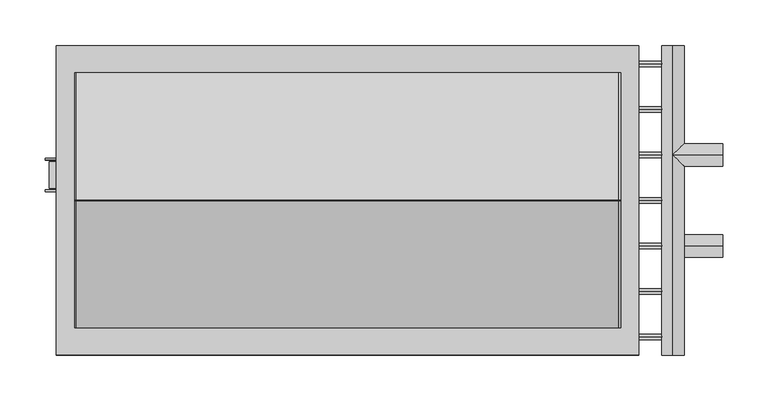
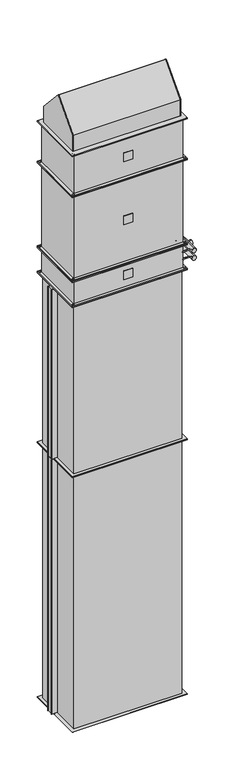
"""IFC4 building model written with IfcOpenShell, lengths in millimetres: proxy geometry, KORF_Завеса_ВодянойНагрев_PWZ_C : PWZ-C 60-30 W2."""

from ifc_helpers import new_model, si_unit, point, frame, frame_2d, origin, origin_with_axes, place, context, project, spatial, polyline, circle_curve, ellipse_curve, trimmed, segment, composite_curve, outline, extrude, source, transform, mapped, element, save
from ifc_brep_helpers import plane_surface, cylinder_surface, advanced_brep


def mechanical_equipment_80870b71(model_context):
    return source(origin(), model_context, "Body", "SolidModel", [
        extrude(outline(polyline([(25.0, -155.0), (-25.0, -155.0), (-25.0, -153.0), (25.0, -153.0), (25.0, -155.0)])), frame((0.0, 0.0, 2550.0), z_axis=(0.0, 0.0, 1.0), x_axis=(1.0, 0.0, 0.0)), (0.0, 0.0, 1.0), 50.0),
        extrude(outline(polyline([(320.0, -170.0), (-320.0, -170.0), (-320.0, 170.0), (320.0, 170.0), (320.0, -170.0)]), holes=[polyline([(300.0, -150.0), (300.0, 150.0), (-300.0, 150.0), (-300.0, -150.0), (300.0, -150.0)]), composite_curve([segment(trimmed(circle_curve(frame_2d((-310.0, -160.0)), 4.5), [point((-305.5, -160.0))], [point((-314.5, -160.0))], True, "CARTESIAN"), True, "CONTINUOUS"), segment(trimmed(circle_curve(frame_2d((-310.0, -160.0)), 4.5), [point((-314.5, -160.0))], [point((-305.5, -160.0))], True, "CARTESIAN"), True, "CONTINUOUS")], self_intersect=False), composite_curve([segment(trimmed(circle_curve(frame_2d((310.0, -160.0)), 4.5), [point((314.5, -160.0))], [point((305.5, -160.0))], True, "CARTESIAN"), True, "CONTINUOUS"), segment(trimmed(circle_curve(frame_2d((310.0, -160.0)), 4.5), [point((305.5, -160.0))], [point((314.5, -160.0))], True, "CARTESIAN"), True, "CONTINUOUS")], self_intersect=False), composite_curve([segment(trimmed(circle_curve(frame_2d((310.0, 160.0)), 4.5), [point((314.5, 160.0))], [point((305.5, 160.0))], True, "CARTESIAN"), True, "CONTINUOUS"), segment(trimmed(circle_curve(frame_2d((310.0, 160.0)), 4.5), [point((305.5, 160.0))], [point((314.5, 160.0))], True, "CARTESIAN"), True, "CONTINUOUS")], self_intersect=False), composite_curve([segment(trimmed(circle_curve(frame_2d((-310.0, 160.0)), 4.5), [point((-305.5, 160.0))], [point((-314.5, 160.0))], True, "CARTESIAN"), True, "CONTINUOUS"), segment(trimmed(circle_curve(frame_2d((-310.0, 160.0)), 4.5), [point((-314.5, 160.0))], [point((-305.5, 160.0))], True, "CARTESIAN"), True, "CONTINUOUS")], self_intersect=False)]), frame((0.0, 0.0, 2645.0), z_axis=(0.0, 0.0, 1.0), x_axis=(1.0, 0.0, 0.0)), (0.0, 0.0, 1.0), 5.0),
        extrude(outline(polyline([(320.0, -170.0), (-320.0, -170.0), (-320.0, 170.0), (320.0, 170.0), (320.0, -170.0)]), holes=[polyline([(300.0, -150.0), (300.0, 150.0), (-300.0, 150.0), (-300.0, -150.0), (300.0, -150.0)]), composite_curve([segment(trimmed(circle_curve(frame_2d((-310.0, -160.0)), 4.5), [point((-305.5, -160.0))], [point((-314.5, -160.0))], True, "CARTESIAN"), True, "CONTINUOUS"), segment(trimmed(circle_curve(frame_2d((-310.0, -160.0)), 4.5), [point((-314.5, -160.0))], [point((-305.5, -160.0))], True, "CARTESIAN"), True, "CONTINUOUS")], self_intersect=False), composite_curve([segment(trimmed(circle_curve(frame_2d((310.0, -160.0)), 4.5), [point((314.5, -160.0))], [point((305.5, -160.0))], True, "CARTESIAN"), True, "CONTINUOUS"), segment(trimmed(circle_curve(frame_2d((310.0, -160.0)), 4.5), [point((305.5, -160.0))], [point((314.5, -160.0))], True, "CARTESIAN"), True, "CONTINUOUS")], self_intersect=False), composite_curve([segment(trimmed(circle_curve(frame_2d((310.0, 160.0)), 4.5), [point((314.5, 160.0))], [point((305.5, 160.0))], True, "CARTESIAN"), True, "CONTINUOUS"), segment(trimmed(circle_curve(frame_2d((310.0, 160.0)), 4.5), [point((305.5, 160.0))], [point((314.5, 160.0))], True, "CARTESIAN"), True, "CONTINUOUS")], self_intersect=False), composite_curve([segment(trimmed(circle_curve(frame_2d((-310.0, 160.0)), 4.5), [point((-305.5, 160.0))], [point((-314.5, 160.0))], True, "CARTESIAN"), True, "CONTINUOUS"), segment(trimmed(circle_curve(frame_2d((-310.0, 160.0)), 4.5), [point((-314.5, 160.0))], [point((-305.5, 160.0))], True, "CARTESIAN"), True, "CONTINUOUS")], self_intersect=False)]), frame((0.0, 0.0, 2500.0), z_axis=(0.0, 0.0, 1.0), x_axis=(1.0, 0.0, 0.0)), (0.0, 0.0, 1.0), 5.0),
        extrude(outline(polyline([(303.0, -153.0), (-303.0, -153.0), (-303.0, 153.0), (303.0, 153.0), (303.0, -153.0)])), frame((0.0, 0.0, 2505.0), z_axis=(0.0, 0.0, 1.0), x_axis=(1.0, 0.0, 0.0)), (0.0, 0.0, 1.0), 140.0),
        advanced_brep(
        [(412.0, -50.0, 2541.0), (412.0, -50.0, 2566.0), (357.5, -50.0, 2541.0), (357.5, -50.0, 2566.0), (357.5, -170.0, 2541.0), (357.5, -170.0, 2566.0), (357.5, 170.0, 2541.0), (357.5, 170.0, 2566.0)],
        [
            (0, 1, circle_curve(frame((412.0, -50.0, 2553.5), z_axis=(1.0, 0.0, 0.0), x_axis=(0.0, 0.0, 1.0000000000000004)), 12.5)),
            (1, 0, circle_curve(frame((412.0, -50.0, 2553.5), z_axis=(1.0, 0.0, 0.0), x_axis=(0.0, 0.0, 1.0000000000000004)), 12.5)),
            (0, 2),
            (2, 3, ellipse_curve(frame((357.5, -50.0, 2553.5), z_axis=(0.7071067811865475, -0.7071067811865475, 0.0), x_axis=(0.7071067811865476, 0.7071067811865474, 0.0)), 17.6776695, 12.5)),
            (3, 1),
            (3, 2, ellipse_curve(frame((357.5, -50.0, 2553.5), z_axis=(0.7071067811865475, 0.7071067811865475, 0.0), x_axis=(0.7071067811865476, -0.7071067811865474, 0.0)), 17.6776695, 12.5)),
            (4, 5, circle_curve(frame((357.5, -170.0, 2553.5), z_axis=(0.0, -1.0, 0.0), x_axis=(0.0, 0.0, 1.0000000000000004)), 12.5)),
            (5, 4, circle_curve(frame((357.5, -170.0, 2553.5), z_axis=(0.0, -1.0, 0.0), x_axis=(0.0, 0.0, 1.0000000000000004)), 12.5)),
            (6, 7, circle_curve(frame((357.5, 170.0, 2553.5), z_axis=(0.0, 1.0, 0.0), x_axis=(0.0, 0.0, 1.0000000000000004)), 12.5)),
            (7, 6, circle_curve(frame((357.5, 170.0, 2553.5), z_axis=(0.0, 1.0, 0.0), x_axis=(0.0, 0.0, 1.0000000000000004)), 12.5)),
            (4, 2),
            (3, 5),
            (7, 3),
            (2, 6),
        ],
        [
            plane_surface(frame((412.0, -50.0, 2566.0), z_axis=(1.0, 0.0, 0.0), x_axis=(0.0, -1.0, 0.0))),
            cylinder_surface(frame((357.5, -50.0, 2553.5), z_axis=(1.0000000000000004, 0.0, 0.0), x_axis=(0.0, 0.0, 1.0000000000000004)), 12.5),
            plane_surface(frame((357.5, -170.0, 2566.0), z_axis=(0.0, -1.0, 0.0), x_axis=(-1.0, 0.0, 0.0))),
            plane_surface(frame((357.5, 170.0, 2566.0), z_axis=(0.0, 1.0, 0.0), x_axis=(1.0, 0.0, 0.0))),
            cylinder_surface(frame((357.5, 170.0, 2553.5), z_axis=(0.0, -1.0, 0.0), x_axis=(0.0, 0.0, 1.0000000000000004)), 12.5),
        ],
        [
            (0, [[1, 2]]),
            (1, [[-1, 3, 4, 5]]),
            (1, [[-2, -5, 6, -3]]),
            (2, [[7, 8]]),
            (3, [[9, 10]]),
            (4, [[-7, 11, -6, 12]]),
            (4, [[-10, 13, -4, 14]]),
            (4, [[-8, -12, -13, -9, -14, -11]]),
        ],
    ),
        advanced_brep(
        [(412.0, 50.0, 2584.0), (412.0, 50.0, 2609.0), (357.5, 50.0, 2584.0), (357.5, 50.0, 2609.0), (357.5, -170.0, 2584.0), (357.5, -170.0, 2609.0), (357.5, 170.0, 2584.0), (357.5, 170.0, 2609.0)],
        [
            (0, 1, circle_curve(frame((412.0, 50.0, 2596.5), z_axis=(1.0, 0.0, 0.0), x_axis=(0.0, 0.0, 1.0000000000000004)), 12.5)),
            (1, 0, circle_curve(frame((412.0, 50.0, 2596.5), z_axis=(1.0, 0.0, 0.0), x_axis=(0.0, 0.0, 1.0000000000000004)), 12.5)),
            (0, 2),
            (2, 3, ellipse_curve(frame((357.5, 50.0, 2596.5), z_axis=(0.7071067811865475, -0.7071067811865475, 0.0), x_axis=(0.7071067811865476, 0.7071067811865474, 0.0)), 17.6776695, 12.5)),
            (3, 1),
            (3, 2, ellipse_curve(frame((357.5, 50.0, 2596.5), z_axis=(0.7071067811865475, 0.7071067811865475, 0.0), x_axis=(0.7071067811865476, -0.7071067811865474, 0.0)), 17.6776695, 12.5)),
            (4, 5, circle_curve(frame((357.5, -170.0, 2596.5), z_axis=(0.0, -1.0, 0.0), x_axis=(0.0, 0.0, 1.0000000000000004)), 12.5)),
            (5, 4, circle_curve(frame((357.5, -170.0, 2596.5), z_axis=(0.0, -1.0, 0.0), x_axis=(0.0, 0.0, 1.0000000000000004)), 12.5)),
            (6, 7, circle_curve(frame((357.5, 170.0, 2596.5), z_axis=(0.0, 1.0, 0.0), x_axis=(0.0, 0.0, 1.0000000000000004)), 12.5)),
            (7, 6, circle_curve(frame((357.5, 170.0, 2596.5), z_axis=(0.0, 1.0, 0.0), x_axis=(0.0, 0.0, 1.0000000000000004)), 12.5)),
            (4, 2),
            (3, 5),
            (7, 3),
            (2, 6),
        ],
        [
            plane_surface(frame((412.0, -50.0, 2566.0), z_axis=(1.0, 0.0, 0.0), x_axis=(0.0, -1.0, 0.0))),
            cylinder_surface(frame((0.0, 50.0, 2596.5), z_axis=(1.0000000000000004, 0.0, 0.0), x_axis=(0.0, 0.0, 1.0000000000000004)), 12.5),
            plane_surface(frame((357.5, -170.0, 2566.0), z_axis=(0.0, -1.0, 0.0), x_axis=(-1.0, 0.0, 0.0))),
            plane_surface(frame((357.5, 170.0, 2566.0), z_axis=(0.0, 1.0, 0.0), x_axis=(1.0, 0.0, 0.0))),
            cylinder_surface(frame((357.5, 0.0, 2596.5), z_axis=(0.0, -1.0, 0.0), x_axis=(0.0, 0.0, 1.0000000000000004)), 12.5),
        ],
        [
            (0, [[1, 2]]),
            (1, [[-1, 3, 4, 5]]),
            (1, [[-2, -5, 6, -3]]),
            (2, [[7, 8]]),
            (3, [[9, 10]]),
            (4, [[-7, 11, -6, 12]]),
            (4, [[-10, 13, -4, 14]]),
            (4, [[-8, -12, -13, -9, -14, -11]]),
        ],
    ),
        extrude(outline(composite_curve([segment(trimmed(circle_curve(frame_2d((-150.0, 2553.5)), 3.0), [point((-150.0, 2550.5))], [point((-150.0, 2556.5))], False, "CARTESIAN"), True, "CONTINUOUS"), segment(trimmed(circle_curve(frame_2d((-150.0, 2553.5)), 3.0), [point((-150.0, 2556.5))], [point((-150.0, 2550.5))], False, "CARTESIAN"), True, "CONTINUOUS")], self_intersect=False)), frame((303.0, 0.0, 0.0), z_axis=(1.0, 0.0, 0.0), x_axis=(0.0, 1.0, 0.0)), (0.0, 0.0, 1.0), 54.5),
        extrude(outline(composite_curve([segment(trimmed(circle_curve(frame_2d((-100.0, 2553.5)), 3.0), [point((-100.0, 2550.5))], [point((-100.0, 2556.5))], False, "CARTESIAN"), True, "CONTINUOUS"), segment(trimmed(circle_curve(frame_2d((-100.0, 2553.5)), 3.0), [point((-100.0, 2556.5))], [point((-100.0, 2550.5))], False, "CARTESIAN"), True, "CONTINUOUS")], self_intersect=False)), frame((303.0, 0.0, 0.0), z_axis=(1.0, 0.0, 0.0), x_axis=(0.0, 1.0, 0.0)), (0.0, 0.0, 1.0), 54.5),
        extrude(outline(composite_curve([segment(trimmed(circle_curve(frame_2d((-50.0, 2553.5)), 3.0), [point((-50.0, 2550.5))], [point((-50.0, 2556.5))], False, "CARTESIAN"), True, "CONTINUOUS"), segment(trimmed(circle_curve(frame_2d((-50.0, 2553.5)), 3.0), [point((-50.0, 2556.5))], [point((-50.0, 2550.5))], False, "CARTESIAN"), True, "CONTINUOUS")], self_intersect=False)), frame((303.0, 0.0, 0.0), z_axis=(1.0, 0.0, 0.0), x_axis=(0.0, 1.0, 0.0)), (0.0, 0.0, 1.0), 54.5),
        extrude(outline(composite_curve([segment(trimmed(circle_curve(frame_2d((0.0, 2553.5)), 3.0), [point((0.0, 2550.5))], [point((0.0, 2556.5))], False, "CARTESIAN"), True, "CONTINUOUS"), segment(trimmed(circle_curve(frame_2d((0.0, 2553.5)), 3.0), [point((0.0, 2556.5))], [point((0.0, 2550.5))], False, "CARTESIAN"), True, "CONTINUOUS")], self_intersect=False)), frame((303.0, 0.0, 0.0), z_axis=(1.0, 0.0, 0.0), x_axis=(0.0, 1.0, 0.0)), (0.0, 0.0, 1.0), 54.5),
        extrude(outline(composite_curve([segment(trimmed(circle_curve(frame_2d((50.0, 2553.5)), 3.0), [point((50.0, 2550.5))], [point((50.0, 2556.5))], False, "CARTESIAN"), True, "CONTINUOUS"), segment(trimmed(circle_curve(frame_2d((50.0, 2553.5)), 3.0), [point((50.0, 2556.5))], [point((50.0, 2550.5))], False, "CARTESIAN"), True, "CONTINUOUS")], self_intersect=False)), frame((303.0, 0.0, 0.0), z_axis=(1.0, 0.0, 0.0), x_axis=(0.0, 1.0, 0.0)), (0.0, 0.0, 1.0), 54.5),
        extrude(outline(composite_curve([segment(trimmed(circle_curve(frame_2d((100.0, 2553.5)), 3.0), [point((100.0, 2550.5))], [point((100.0, 2556.5))], False, "CARTESIAN"), True, "CONTINUOUS"), segment(trimmed(circle_curve(frame_2d((100.0, 2553.5)), 3.0), [point((100.0, 2556.5))], [point((100.0, 2550.5))], False, "CARTESIAN"), True, "CONTINUOUS")], self_intersect=False)), frame((303.0, 0.0, 0.0), z_axis=(1.0, 0.0, 0.0), x_axis=(0.0, 1.0, 0.0)), (0.0, 0.0, 1.0), 54.5),
        extrude(outline(composite_curve([segment(trimmed(circle_curve(frame_2d((100.0, 2596.5)), 3.0), [point((100.0, 2593.5))], [point((100.0, 2599.5))], False, "CARTESIAN"), True, "CONTINUOUS"), segment(trimmed(circle_curve(frame_2d((100.0, 2596.5)), 3.0), [point((100.0, 2599.5))], [point((100.0, 2593.5))], False, "CARTESIAN"), True, "CONTINUOUS")], self_intersect=False)), frame((303.0, 0.0, 0.0), z_axis=(1.0, 0.0, 0.0), x_axis=(0.0, 1.0, 0.0)), (0.0, 0.0, 1.0), 54.5),
        extrude(outline(composite_curve([segment(trimmed(circle_curve(frame_2d((50.0, 2596.5)), 3.0), [point((50.0, 2593.5))], [point((50.0, 2599.5))], False, "CARTESIAN"), True, "CONTINUOUS"), segment(trimmed(circle_curve(frame_2d((50.0, 2596.5)), 3.0), [point((50.0, 2599.5))], [point((50.0, 2593.5))], False, "CARTESIAN"), True, "CONTINUOUS")], self_intersect=False)), frame((303.0, 0.0, 0.0), z_axis=(1.0, 0.0, 0.0), x_axis=(0.0, 1.0, 0.0)), (0.0, 0.0, 1.0), 54.5),
        extrude(outline(composite_curve([segment(trimmed(circle_curve(frame_2d((0.0, 2596.5)), 3.0), [point((0.0, 2593.5))], [point((0.0, 2599.5))], False, "CARTESIAN"), True, "CONTINUOUS"), segment(trimmed(circle_curve(frame_2d((0.0, 2596.5)), 3.0), [point((0.0, 2599.5))], [point((0.0, 2593.5))], False, "CARTESIAN"), True, "CONTINUOUS")], self_intersect=False)), frame((303.0, 0.0, 0.0), z_axis=(1.0, 0.0, 0.0), x_axis=(0.0, 1.0, 0.0)), (0.0, 0.0, 1.0), 54.5),
        extrude(outline(composite_curve([segment(trimmed(circle_curve(frame_2d((-50.0, 2596.5)), 3.0), [point((-50.0, 2593.5))], [point((-50.0, 2599.5))], False, "CARTESIAN"), True, "CONTINUOUS"), segment(trimmed(circle_curve(frame_2d((-50.0, 2596.5)), 3.0), [point((-50.0, 2599.5))], [point((-50.0, 2593.5))], False, "CARTESIAN"), True, "CONTINUOUS")], self_intersect=False)), frame((303.0, 0.0, 0.0), z_axis=(1.0, 0.0, 0.0), x_axis=(0.0, 1.0, 0.0)), (0.0, 0.0, 1.0), 54.5),
        extrude(outline(composite_curve([segment(trimmed(circle_curve(frame_2d((-100.0, 2596.5)), 3.0), [point((-100.0, 2593.5))], [point((-100.0, 2599.5))], False, "CARTESIAN"), True, "CONTINUOUS"), segment(trimmed(circle_curve(frame_2d((-100.0, 2596.5)), 3.0), [point((-100.0, 2599.5))], [point((-100.0, 2593.5))], False, "CARTESIAN"), True, "CONTINUOUS")], self_intersect=False)), frame((303.0, 0.0, 0.0), z_axis=(1.0, 0.0, 0.0), x_axis=(0.0, 1.0, 0.0)), (0.0, 0.0, 1.0), 54.5),
        extrude(outline(composite_curve([segment(trimmed(circle_curve(frame_2d((-150.0, 2596.5)), 3.0), [point((-150.0, 2593.5))], [point((-150.0, 2599.5))], False, "CARTESIAN"), True, "CONTINUOUS"), segment(trimmed(circle_curve(frame_2d((-150.0, 2596.5)), 3.0), [point((-150.0, 2599.5))], [point((-150.0, 2593.5))], False, "CARTESIAN"), True, "CONTINUOUS")], self_intersect=False)), frame((303.0, 0.0, 0.0), z_axis=(1.0, 0.0, 0.0), x_axis=(0.0, 1.0, 0.0)), (0.0, 0.0, 1.0), 54.5),
        extrude(outline(composite_curve([segment(trimmed(circle_curve(frame_2d((150.0, 2553.5)), 3.0), [point((150.0, 2550.5))], [point((150.0, 2556.5))], False, "CARTESIAN"), True, "CONTINUOUS"), segment(trimmed(circle_curve(frame_2d((150.0, 2553.5)), 3.0), [point((150.0, 2556.5))], [point((150.0, 2550.5))], False, "CARTESIAN"), True, "CONTINUOUS")], self_intersect=False)), frame((303.0, 0.0, 0.0), z_axis=(1.0, 0.0, 0.0), x_axis=(0.0, 1.0, 0.0)), (0.0, 0.0, 1.0), 54.5),
        extrude(outline(composite_curve([segment(trimmed(circle_curve(frame_2d((150.0, 2596.5)), 3.0), [point((150.0, 2593.5))], [point((150.0, 2599.5))], False, "CARTESIAN"), True, "CONTINUOUS"), segment(trimmed(circle_curve(frame_2d((150.0, 2596.5)), 3.0), [point((150.0, 2599.5))], [point((150.0, 2593.5))], False, "CARTESIAN"), True, "CONTINUOUS")], self_intersect=False)), frame((303.0, 0.0, 0.0), z_axis=(1.0, 0.0, 0.0), x_axis=(0.0, 1.0, 0.0)), (0.0, 0.0, 1.0), 54.5),
        extrude(outline(polyline([(25.0, -155.0), (-25.0, -155.0), (-25.0, -153.0), (25.0, -153.0), (25.0, -155.0)])), frame((0.0, 0.0, 3244.0), z_axis=(0.0, 0.0, 1.0), x_axis=(1.0, 0.0, 0.0)), (0.0, 0.0, 1.0), 50.0),
        extrude(outline(polyline([(-320.0, -170.0), (-320.0, 170.0), (320.0, 170.0), (320.0, -170.0), (-320.0, -170.0)]), holes=[polyline([(-300.0, -150.0), (300.0, -150.0), (300.0, 150.0), (-300.0, 150.0), (-300.0, -150.0)]), composite_curve([segment(trimmed(circle_curve(frame_2d((310.0, -160.0)), 4.5), [point((314.5, -160.0))], [point((305.5, -160.0))], True, "CARTESIAN"), True, "CONTINUOUS"), segment(trimmed(circle_curve(frame_2d((310.0, -160.0)), 4.5), [point((305.5, -160.0))], [point((314.5, -160.0))], True, "CARTESIAN"), True, "CONTINUOUS")], self_intersect=False), composite_curve([segment(trimmed(circle_curve(frame_2d((-310.0, -160.0)), 4.5), [point((-305.5, -160.0))], [point((-314.5, -160.0))], True, "CARTESIAN"), True, "CONTINUOUS"), segment(trimmed(circle_curve(frame_2d((-310.0, -160.0)), 4.5), [point((-314.5, -160.0))], [point((-305.5, -160.0))], True, "CARTESIAN"), True, "CONTINUOUS")], self_intersect=False), composite_curve([segment(trimmed(circle_curve(frame_2d((-310.0, 160.0)), 4.5), [point((-305.5, 160.0))], [point((-314.5, 160.0))], True, "CARTESIAN"), True, "CONTINUOUS"), segment(trimmed(circle_curve(frame_2d((-310.0, 160.0)), 4.5), [point((-314.5, 160.0))], [point((-305.5, 160.0))], True, "CARTESIAN"), True, "CONTINUOUS")], self_intersect=False), composite_curve([segment(trimmed(circle_curve(frame_2d((310.0, 160.0)), 4.5), [point((314.5, 160.0))], [point((305.5, 160.0))], True, "CARTESIAN"), True, "CONTINUOUS"), segment(trimmed(circle_curve(frame_2d((310.0, 160.0)), 4.5), [point((305.5, 160.0))], [point((314.5, 160.0))], True, "CARTESIAN"), True, "CONTINUOUS")], self_intersect=False)]), frame((0.0, 0.0, 3148.0), z_axis=(0.0, 0.0, 1.0), x_axis=(1.0, 0.0, 0.0)), (0.0, 0.0, 1.0), 5.0),
        extrude(outline(polyline([(-320.0, -170.0), (-320.0, 170.0), (320.0, 170.0), (320.0, -170.0), (-320.0, -170.0)]), holes=[polyline([(-300.0, -150.0), (300.0, -150.0), (300.0, 150.0), (-300.0, 150.0), (-300.0, -150.0)]), composite_curve([segment(trimmed(circle_curve(frame_2d((310.0, -160.0)), 4.5), [point((314.5, -160.0))], [point((305.5, -160.0))], True, "CARTESIAN"), True, "CONTINUOUS"), segment(trimmed(circle_curve(frame_2d((310.0, -160.0)), 4.5), [point((305.5, -160.0))], [point((314.5, -160.0))], True, "CARTESIAN"), True, "CONTINUOUS")], self_intersect=False), composite_curve([segment(trimmed(circle_curve(frame_2d((-310.0, -160.0)), 4.5), [point((-305.5, -160.0))], [point((-314.5, -160.0))], True, "CARTESIAN"), True, "CONTINUOUS"), segment(trimmed(circle_curve(frame_2d((-310.0, -160.0)), 4.5), [point((-314.5, -160.0))], [point((-305.5, -160.0))], True, "CARTESIAN"), True, "CONTINUOUS")], self_intersect=False), composite_curve([segment(trimmed(circle_curve(frame_2d((-310.0, 160.0)), 4.5), [point((-305.5, 160.0))], [point((-314.5, 160.0))], True, "CARTESIAN"), True, "CONTINUOUS"), segment(trimmed(circle_curve(frame_2d((-310.0, 160.0)), 4.5), [point((-314.5, 160.0))], [point((-305.5, 160.0))], True, "CARTESIAN"), True, "CONTINUOUS")], self_intersect=False), composite_curve([segment(trimmed(circle_curve(frame_2d((310.0, 160.0)), 4.5), [point((314.5, 160.0))], [point((305.5, 160.0))], True, "CARTESIAN"), True, "CONTINUOUS"), segment(trimmed(circle_curve(frame_2d((310.0, 160.0)), 4.5), [point((305.5, 160.0))], [point((314.5, 160.0))], True, "CARTESIAN"), True, "CONTINUOUS")], self_intersect=False)]), frame((0.0, 0.0, 3385.0), z_axis=(0.0, 0.0, 1.0), x_axis=(1.0, 0.0, 0.0)), (0.0, 0.0, 1.0), 5.0),
        extrude(outline(polyline([(-303.0, -153.0), (-303.0, 153.0), (303.0, 153.0), (303.0, -153.0), (-303.0, -153.0)])), frame((0.0, 0.0, 3153.0), z_axis=(0.0, 0.0, 1.0), x_axis=(1.0, 0.0, 0.0)), (0.0, 0.0, 1.0), 232.0),
        extrude(outline(polyline([(25.0, -155.0), (-25.0, -155.0), (-25.0, -153.0), (25.0, -153.0), (25.0, -155.0)])), frame((0.0, 0.0, 2874.0), z_axis=(0.0, 0.0, 1.0), x_axis=(1.0, 0.0, 0.0)), (0.0, 0.0, 1.0), 50.0),
        extrude(outline(polyline([(320.0, -170.0), (-320.0, -170.0), (-320.0, 170.0), (320.0, 170.0), (320.0, -170.0)]), holes=[polyline([(300.0, -150.0), (300.0, 150.0), (-300.0, 150.0), (-300.0, -150.0), (300.0, -150.0)]), composite_curve([segment(trimmed(circle_curve(frame_2d((-310.0, -160.0)), 4.5), [point((-305.5, -160.0))], [point((-314.5, -160.0))], True, "CARTESIAN"), True, "CONTINUOUS"), segment(trimmed(circle_curve(frame_2d((-310.0, -160.0)), 4.5), [point((-314.5, -160.0))], [point((-305.5, -160.0))], True, "CARTESIAN"), True, "CONTINUOUS")], self_intersect=False), composite_curve([segment(trimmed(circle_curve(frame_2d((310.0, -160.0)), 4.5), [point((314.5, -160.0))], [point((305.5, -160.0))], True, "CARTESIAN"), True, "CONTINUOUS"), segment(trimmed(circle_curve(frame_2d((310.0, -160.0)), 4.5), [point((305.5, -160.0))], [point((314.5, -160.0))], True, "CARTESIAN"), True, "CONTINUOUS")], self_intersect=False), composite_curve([segment(trimmed(circle_curve(frame_2d((310.0, 160.0)), 4.5), [point((314.5, 160.0))], [point((305.5, 160.0))], True, "CARTESIAN"), True, "CONTINUOUS"), segment(trimmed(circle_curve(frame_2d((310.0, 160.0)), 4.5), [point((305.5, 160.0))], [point((314.5, 160.0))], True, "CARTESIAN"), True, "CONTINUOUS")], self_intersect=False), composite_curve([segment(trimmed(circle_curve(frame_2d((-310.0, 160.0)), 4.5), [point((-305.5, 160.0))], [point((-314.5, 160.0))], True, "CARTESIAN"), True, "CONTINUOUS"), segment(trimmed(circle_curve(frame_2d((-310.0, 160.0)), 4.5), [point((-314.5, 160.0))], [point((-305.5, 160.0))], True, "CARTESIAN"), True, "CONTINUOUS")], self_intersect=False)]), frame((0.0, 0.0, 3143.0), z_axis=(0.0, 0.0, 1.0), x_axis=(1.0, 0.0, 0.0)), (0.0, 0.0, 1.0), 5.0),
        extrude(outline(polyline([(320.0, -170.0), (-320.0, -170.0), (-320.0, 170.0), (320.0, 170.0), (320.0, -170.0)]), holes=[polyline([(300.0, -150.0), (300.0, 150.0), (-300.0, 150.0), (-300.0, -150.0), (300.0, -150.0)]), composite_curve([segment(trimmed(circle_curve(frame_2d((-310.0, -160.0)), 4.5), [point((-305.5, -160.0))], [point((-314.5, -160.0))], True, "CARTESIAN"), True, "CONTINUOUS"), segment(trimmed(circle_curve(frame_2d((-310.0, -160.0)), 4.5), [point((-314.5, -160.0))], [point((-305.5, -160.0))], True, "CARTESIAN"), True, "CONTINUOUS")], self_intersect=False), composite_curve([segment(trimmed(circle_curve(frame_2d((310.0, -160.0)), 4.5), [point((314.5, -160.0))], [point((305.5, -160.0))], True, "CARTESIAN"), True, "CONTINUOUS"), segment(trimmed(circle_curve(frame_2d((310.0, -160.0)), 4.5), [point((305.5, -160.0))], [point((314.5, -160.0))], True, "CARTESIAN"), True, "CONTINUOUS")], self_intersect=False), composite_curve([segment(trimmed(circle_curve(frame_2d((310.0, 160.0)), 4.5), [point((314.5, 160.0))], [point((305.5, 160.0))], True, "CARTESIAN"), True, "CONTINUOUS"), segment(trimmed(circle_curve(frame_2d((310.0, 160.0)), 4.5), [point((305.5, 160.0))], [point((314.5, 160.0))], True, "CARTESIAN"), True, "CONTINUOUS")], self_intersect=False), composite_curve([segment(trimmed(circle_curve(frame_2d((-310.0, 160.0)), 4.5), [point((-305.5, 160.0))], [point((-314.5, 160.0))], True, "CARTESIAN"), True, "CONTINUOUS"), segment(trimmed(circle_curve(frame_2d((-310.0, 160.0)), 4.5), [point((-314.5, 160.0))], [point((-305.5, 160.0))], True, "CARTESIAN"), True, "CONTINUOUS")], self_intersect=False)]), frame((0.0, 0.0, 2650.0), z_axis=(0.0, 0.0, 1.0), x_axis=(1.0, 0.0, 0.0)), (0.0, 0.0, 1.0), 5.0),
        extrude(outline(polyline([(303.0, -153.0), (-303.0, -153.0), (-303.0, 153.0), (303.0, 153.0), (303.0, -153.0)])), frame((0.0, 0.0, 2655.0), z_axis=(0.0, 0.0, 1.0), x_axis=(1.0, 0.0, 0.0)), (0.0, 0.0, 1.0), 488.0),
        extrude(outline(polyline([(300.0, 150.0), (300.0, -150.0), (-300.0, -150.0), (-300.0, 150.0), (300.0, 150.0)])), frame((0.0, 0.0, 1500.0), z_axis=(0.0, 0.0, 1.0), x_axis=(1.0, 0.0, 0.0)), (0.0, 0.0, 1.0), 1000.0),
        extrude(outline(polyline([(-328.0, 42.5), (-300.0, 42.5), (-300.0, 13.5), (-328.0, 13.5), (-328.0, 42.5)])), frame((0.0, 0.0, 1502.0), z_axis=(0.0, 0.0, 1.0), x_axis=(1.0, 0.0, 0.0)), (0.0, 0.0, 1.0), 996.0),
        extrude(outline(polyline([(-332.0, 46.5), (-300.0, 46.5), (-300.0, 44.5), (-332.0, 44.5), (-332.0, 46.5)])), frame((0.0, 0.0, 1502.0), z_axis=(0.0, 0.0, 1.0), x_axis=(1.0, 0.0, 0.0)), (0.0, 0.0, 1.0), 996.0),
        extrude(outline(polyline([(-332.0, 9.5), (-332.0, 11.5), (-300.0, 11.5), (-300.0, 9.5), (-332.0, 9.5)])), frame((0.0, 0.0, 1502.0), z_axis=(0.0, 0.0, 1.0), x_axis=(1.0, 0.0, 0.0)), (0.0, 0.0, 1.0), 996.0),
        extrude(outline(polyline([(320.0, 170.0), (320.0, -170.0), (-320.0, -170.0), (-320.0, 170.0), (320.0, 170.0)]), holes=[polyline([(300.0, 150.0), (-300.0, 150.0), (-300.0, -150.0), (300.0, -150.0), (300.0, 150.0)])]), frame((0.0, 0.0, 2498.0), z_axis=(0.0, 0.0, 1.0), x_axis=(1.0, 0.0, 0.0)), (0.0, 0.0, 1.0), 2.0),
        extrude(outline(polyline([(320.0, 170.0), (320.0, -170.0), (-320.0, -170.0), (-320.0, 170.0), (320.0, 170.0)]), holes=[polyline([(300.0, 150.0), (-300.0, 150.0), (-300.0, -150.0), (300.0, -150.0), (300.0, 150.0)])]), frame((0.0, 0.0, 1500.0), z_axis=(0.0, 0.0, 1.0), x_axis=(1.0, 0.0, 0.0)), (0.0, 0.0, 1.0), 2.0),
        extrude(outline(polyline([(300.0, 150.0), (300.0, -150.0), (-300.0, -150.0), (-300.0, 150.0), (300.0, 150.0)])), origin_with_axes(), (0.0, 0.0, 1.0), 1500.0),
        extrude(outline(polyline([(-328.0, 42.5), (-300.0, 42.5), (-300.0, 13.5), (-328.0, 13.5), (-328.0, 42.5)])), frame((0.0, 0.0, 2.0), z_axis=(0.0, 0.0, 1.0), x_axis=(1.0, 0.0, 0.0)), (0.0, 0.0, 1.0), 1496.0),
        extrude(outline(polyline([(-332.0, 46.5), (-300.0, 46.5), (-300.0, 44.5), (-332.0, 44.5), (-332.0, 46.5)])), frame((0.0, 0.0, 2.0), z_axis=(0.0, 0.0, 1.0), x_axis=(1.0, 0.0, 0.0)), (0.0, 0.0, 1.0), 1496.0),
        extrude(outline(polyline([(-332.0, 9.5), (-332.0, 11.5), (-300.0, 11.5), (-300.0, 9.5), (-332.0, 9.5)])), frame((0.0, 0.0, 2.0), z_axis=(0.0, 0.0, 1.0), x_axis=(1.0, 0.0, 0.0)), (0.0, 0.0, 1.0), 1496.0),
        extrude(outline(polyline([(320.0, 170.0), (320.0, -170.0), (-320.0, -170.0), (-320.0, 170.0), (320.0, 170.0)]), holes=[polyline([(300.0, 150.0), (-300.0, 150.0), (-300.0, -150.0), (300.0, -150.0), (300.0, 150.0)])]), frame((0.0, 0.0, 1498.0), z_axis=(0.0, 0.0, 1.0), x_axis=(1.0, 0.0, 0.0)), (0.0, 0.0, 1.0), 2.0),
        extrude(outline(polyline([(320.0, 170.0), (320.0, -170.0), (-320.0, -170.0), (-320.0, 170.0), (320.0, 170.0)]), holes=[polyline([(300.0, 150.0), (-300.0, 150.0), (-300.0, -150.0), (300.0, -150.0), (300.0, 150.0)])]), origin_with_axes(), (0.0, 0.0, 1.0), 2.0),
        extrude(outline(composite_curve([segment(polyline([(140.0, 3487.1428571), (140.0, 3392.0), (-140.0, 3392.0), (-140.0, 3487.1428571), (-0.6395979, 3639.3786763)]), True, "CONTINUOUS"), segment(trimmed(circle_curve(frame_2d((0.0, 3638.7202668)), 0.9179263), [point((-0.6395979, 3639.3786763))], [point((0.6395979, 3639.3786763))], False, "CARTESIAN"), True, "CONTINUOUS"), segment(polyline([(0.6395979, 3639.3786763), (140.0, 3487.1428571)]), True, "CONTINUOUS")], self_intersect=False)), frame((298.0, 0.0, 0.0), z_axis=(1.0, 0.0, 0.0), x_axis=(0.0, 1.0, 0.0)), (0.0, 0.0, 1.0), 2.0),
        extrude(outline(composite_curve([segment(polyline([(140.0, 3487.1428571), (140.0, 3392.0), (-140.0, 3392.0), (-140.0, 3487.1428571), (-0.6395979, 3639.3786763)]), True, "CONTINUOUS"), segment(trimmed(circle_curve(frame_2d((0.0, 3638.7202668)), 0.9179263), [point((-0.6395979, 3639.3786763))], [point((0.6395979, 3639.3786763))], False, "CARTESIAN"), True, "CONTINUOUS"), segment(polyline([(0.6395979, 3639.3786763), (140.0, 3487.1428571)]), True, "CONTINUOUS")], self_intersect=False)), frame((-298.0, 0.0, 0.0), z_axis=(1.0, 0.0, 0.0), x_axis=(0.0, 1.0, 0.0)), (0.0, 0.0, 1.0), 596.0),
        extrude(outline(composite_curve([segment(polyline([(140.0, 3487.1428571), (140.0, 3392.0), (-140.0, 3392.0), (-140.0, 3487.1428571), (-0.6395979, 3639.3786763)]), True, "CONTINUOUS"), segment(trimmed(circle_curve(frame_2d((0.0, 3638.7202668)), 0.9179263), [point((-0.6395979, 3639.3786763))], [point((0.6395979, 3639.3786763))], False, "CARTESIAN"), True, "CONTINUOUS"), segment(polyline([(0.6395979, 3639.3786763), (140.0, 3487.1428571)]), True, "CONTINUOUS")], self_intersect=False)), frame((-300.0, 0.0, 0.0), z_axis=(1.0, 0.0, 0.0), x_axis=(0.0, 1.0, 0.0)), (0.0, 0.0, 1.0), 2.0),
        extrude(outline(polyline([(320.0, 170.0), (320.0, -170.0), (-320.0, -170.0), (-320.0, 170.0), (320.0, 170.0)]), holes=[polyline([(-300.0, 140.0), (-300.0, -140.0), (300.0, -140.0), (300.0, 140.0), (-300.0, 140.0)])]), frame((0.0, 0.0, 3390.0), z_axis=(0.0, 0.0, 1.0), x_axis=(1.0, 0.0, 0.0)), (0.0, 0.0, 1.0), 2.0),
    ])


if __name__ == "__main__":
    model = new_model("IFC4")
    model_context = context("Model", 3, world=origin())
    ifc_project = project(units=[si_unit("LENGTHUNIT", "METRE", prefix="MILLI")], contexts=[model_context])
    site = spatial("IfcSite", under=ifc_project)
    building = spatial("IfcBuilding", under=site)
    placement = place(None, origin())
    mechanical_equipment_shape = mechanical_equipment_80870b71(model_context)
    element("IfcBuildingElementProxy", 1, Name="KORF_Завеса_ВодянойНагрев_PWZ_C : PWZ-C 60-30 W2", ObjectType="KORF_Завеса_ВодянойНагрев_PWZ_C : PWZ-C 60-30 W2", at=placement, inside=building, context=model_context, shape_type="MappedRepresentation", body=[
        mapped(mechanical_equipment_shape, transform((0.0, 0.0, 0.0), x_axis=(1.0, 0.0, 0.0), y_axis=(0.0, 1.0, 0.0), z_axis=(0.0, 0.0, 1.0))),
    ])
    save(model, "model.ifc")
